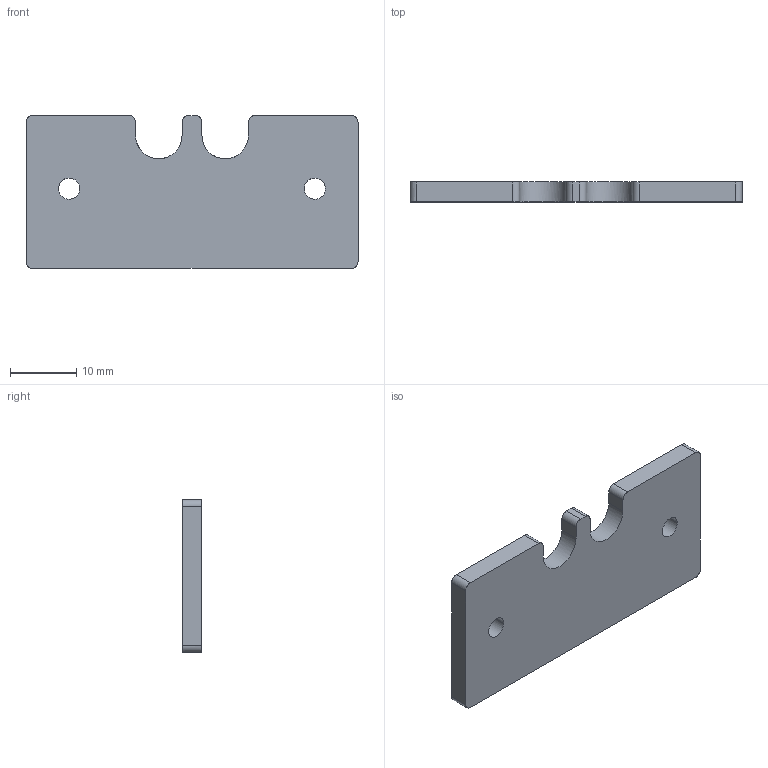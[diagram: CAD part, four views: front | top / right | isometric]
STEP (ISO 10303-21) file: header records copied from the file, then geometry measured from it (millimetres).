
FILE_DESCRIPTION(/* description */ (''),/* implementation_level */ '2;1');
FILE_NAME(/* name */ '1.frame-bottom#1.6#la-pan-3',/* time_stamp */ '2014-12-01T20:11:27+01:00',/* author */ (''),/* organization */ (''),/* preprocessor_version */ 'ST-DEVELOPER v14',/* originating_system */ '',/* authorisation */ '');
FILE_SCHEMA (('AUTOMOTIVE_DESIGN'));
Length unit declared in the file: millimetre
Products named in the file (1): Document
Bounding box: 50 x 3 x 23 mm (x, y, z)
Volume: 3155.2 mm3; surface area: 2651.8 mm2
Topology: 1 solids, 1 shells, 26 faces, 72 edges, 48 vertices
Faces by surface type: bspline 18, plane 8
Entity records: 1671 total; most frequent: CARTESIAN_POINT 778, ORIENTED_EDGE 144, PCURVE 144, DEFINITIONAL_REPRESENTATION 144, B_SPLINE_CURVE_WITH_KNOTS 125, SURFACE_CURVE 72, EDGE_CURVE 72, VERTEX_POINT 48
